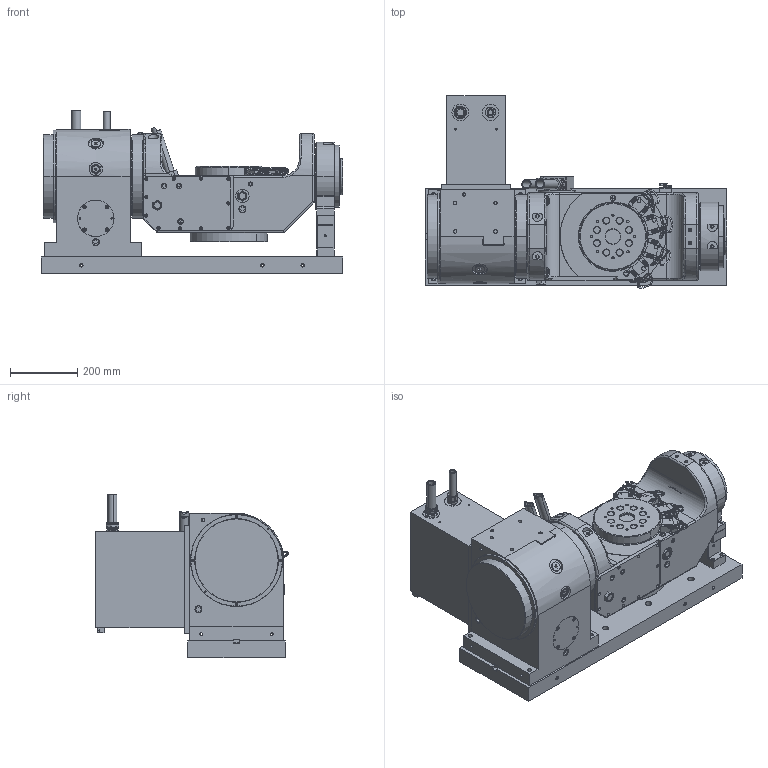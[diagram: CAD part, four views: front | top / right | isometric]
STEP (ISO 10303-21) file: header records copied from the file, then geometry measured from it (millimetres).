
FILE_DESCRIPTION (( 'STEP AP203' ), '1' );
FILE_NAME ('15091261 MDWAT232B-02.STEP', '2020-12-05T05:13:11', ( '' ), ( '' ), 'SwSTEP 2.0', 'SolidWorks 2019', '' );
FILE_SCHEMA (( 'CONFIG_CONTROL_DESIGN' ));
Products named in the file (1): 15091261 MDWAT232B-02
Bounding box: 900 x 574.45 x 487.3 mm (x, y, z)
Surface area: 2624779.7 mm2 (no closed solid volume)
Topology: 0 solids, 188 shells, 1735 faces, 5692 edges, 4075 vertices
Faces by surface type: plane 782, cylinder 693, cone 123, torus 70, bspline 45, sphere 22
Entity records: 83415 total; most frequent: CARTESIAN_POINT 33035, DIRECTION 11030, ORIENTED_EDGE 8836, EDGE_CURVE 5678, VERTEX_POINT 4075, AXIS2_PLACEMENT_3D 4010, VECTOR 3010, LINE 3010
